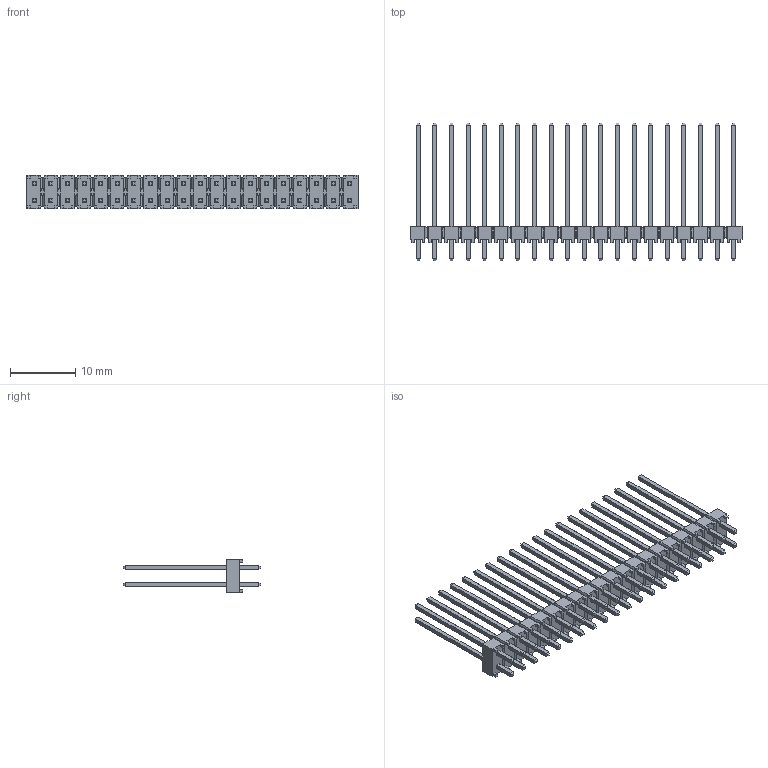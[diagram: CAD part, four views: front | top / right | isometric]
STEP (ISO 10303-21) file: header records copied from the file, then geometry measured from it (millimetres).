
FILE_DESCRIPTION(/* description */ ('STEP AP214'),/* implementation_level */ '2;1');
FILE_NAME(/* name */ 'TSW-120-17-F-D',/* time_stamp */ '2024-02-15T11:51:48+01:00',/* author */ ('License CC BY-ND 4.0'),/* organization */ ('CADENAS'),/* preprocessor_version */ 'ST-DEVELOPER v19.3',/* originating_system */ 'PARTsolutions',/* authorisation */ ' ');
FILE_SCHEMA (('FEATURE_BASED_PROCESS_PLANNING','AUTOMOTIVE_DESIGN {1 0 10303 214 3 1 1}'));
Length unit declared in the file: inch
Products named in the file (3): TSW-120-17-F-D; TSW-120-17-F-D_body; T-1S6-10-TSW-1-17-20-D
Assembly tree (2 placements, depth 2):
  TSW-120-17-F-D
    TSW-120-17-F-D_body
    T-1S6-10-TSW-1-17-20-D
Bounding box: 50.8 x 21.08 x 5.08 mm (x, y, z)
Volume: 822.9 mm3; surface area: 3549.1 mm2
Topology: 2 solids, 2 shells, 1668 faces, 4166 edges, 2544 vertices
Faces by surface type: plane 1668
Entity records: 48004 total; most frequent: CARTESIAN_POINT 8381, ORIENTED_EDGE 8332, DIRECTION 7508, EDGE_CURVE 4166, LINE 4166, VECTOR 4166, VERTEX_POINT 2544, EDGE_LOOP 1828
